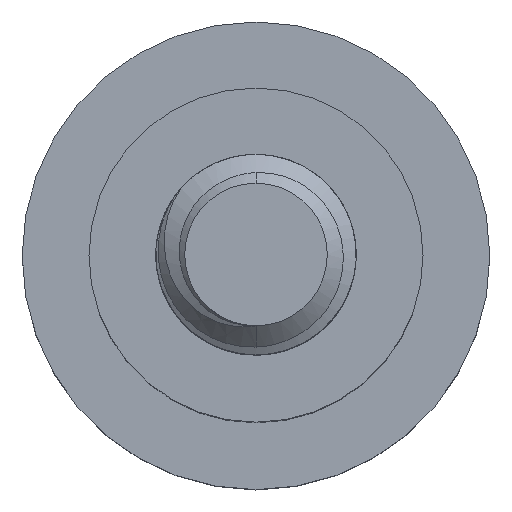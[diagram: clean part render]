
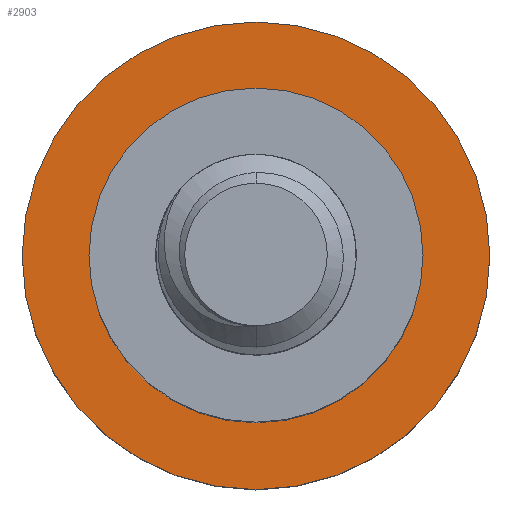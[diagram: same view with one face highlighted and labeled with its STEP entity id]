
A CAD part, top view. The second image highlights one B-rep face of the part: STEP entity #2903.
In plain terms, the highlighted planar face has unit normal (0, 0, 1).
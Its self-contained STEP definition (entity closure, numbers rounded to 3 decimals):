
#21 = AXIS2_PLACEMENT_3D ( 'NONE', #1382, #3299, #2695 ) ;
#199 = EDGE_CURVE ( 'NONE', #3661, #407, #3731, .T. ) ;
#297 = CIRCLE ( 'NONE', #3255, 7. ) ;
#371 = AXIS2_PLACEMENT_3D ( 'NONE', #2829, #2533, #4150 ) ;
#407 = VERTEX_POINT ( 'NONE', #840 ) ;
#515 = DIRECTION ( 'NONE',  ( 0., 0., -1. ) ) ;
#568 = FACE_BOUND ( 'NONE', #2510, .T. ) ;
#569 = CIRCLE ( 'NONE', #3875, 7. ) ;
#591 = EDGE_CURVE ( 'NONE', #1700, #4041, #569, .T. ) ;
#648 = AXIS2_PLACEMENT_3D ( 'NONE', #1897, #885, #2183 ) ;
#788 = ORIENTED_EDGE ( 'NONE', *, *, #591, .F. ) ;
#840 = CARTESIAN_POINT ( 'NONE',  ( 5., 0., -12. ) ) ;
#885 = DIRECTION ( 'NONE',  ( 0., 0., -1. ) ) ;
#1382 = CARTESIAN_POINT ( 'NONE',  ( 0., 0., -12. ) ) ;
#1397 = DIRECTION ( 'NONE',  ( -1., 0., 0. ) ) ;
#1412 = CARTESIAN_POINT ( 'NONE',  ( -7., 0., -12. ) ) ;
#1418 = ORIENTED_EDGE ( 'NONE', *, *, #199, .T. ) ;
#1461 = CARTESIAN_POINT ( 'NONE',  ( 0., 0., -12. ) ) ;
#1629 = ORIENTED_EDGE ( 'NONE', *, *, #2223, .F. ) ;
#1700 = VERTEX_POINT ( 'NONE', #1412 ) ;
#1841 = PLANE ( 'NONE',  #371 ) ;
#1897 = CARTESIAN_POINT ( 'NONE',  ( 0., 0., -12. ) ) ;
#2099 = EDGE_LOOP ( 'NONE', ( #1629, #788 ) ) ;
#2183 = DIRECTION ( 'NONE',  ( -1., 0., 0. ) ) ;
#2223 = EDGE_CURVE ( 'NONE', #4041, #1700, #297, .T. ) ;
#2338 = CARTESIAN_POINT ( 'NONE',  ( -5., 0., -12. ) ) ;
#2374 = CARTESIAN_POINT ( 'NONE',  ( 7., 0., -12. ) ) ;
#2510 = EDGE_LOOP ( 'NONE', ( #1418, #3014 ) ) ;
#2533 = DIRECTION ( 'NONE',  ( 0., 0., -1. ) ) ;
#2552 = FACE_OUTER_BOUND ( 'NONE', #2099, .T. ) ;
#2695 = DIRECTION ( 'NONE',  ( -1., 0., 0. ) ) ;
#2829 = CARTESIAN_POINT ( 'NONE',  ( 0., 0., -12. ) ) ;
#2903 = ADVANCED_FACE ( 'NONE', ( #568, #2552 ), #1841, .F. ) ;
#2916 = CIRCLE ( 'NONE', #648, 5. ) ;
#2927 = CARTESIAN_POINT ( 'NONE',  ( 0., 0., -12. ) ) ;
#3014 = ORIENTED_EDGE ( 'NONE', *, *, #3776, .T. ) ;
#3255 = AXIS2_PLACEMENT_3D ( 'NONE', #1461, #515, #1397 ) ;
#3299 = DIRECTION ( 'NONE',  ( 0., 0., -1. ) ) ;
#3555 = DIRECTION ( 'NONE',  ( -1., 0., 0. ) ) ;
#3661 = VERTEX_POINT ( 'NONE', #2338 ) ;
#3731 = CIRCLE ( 'NONE', #21, 5. ) ;
#3776 = EDGE_CURVE ( 'NONE', #407, #3661, #2916, .T. ) ;
#3875 = AXIS2_PLACEMENT_3D ( 'NONE', #2927, #4249, #3555 ) ;
#4041 = VERTEX_POINT ( 'NONE', #2374 ) ;
#4150 = DIRECTION ( 'NONE',  ( -1., 0., 0. ) ) ;
#4249 = DIRECTION ( 'NONE',  ( 0., 0., -1. ) ) ;
